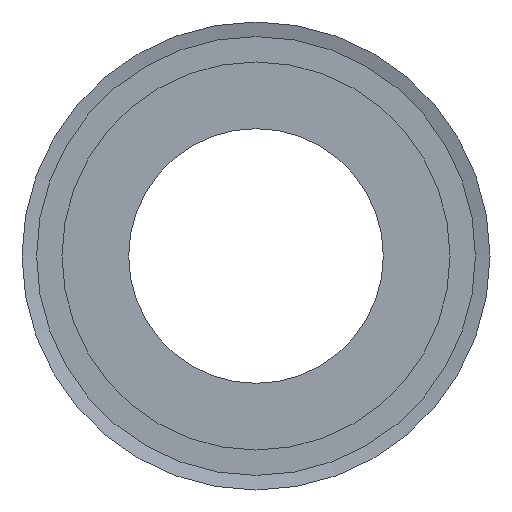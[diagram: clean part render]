
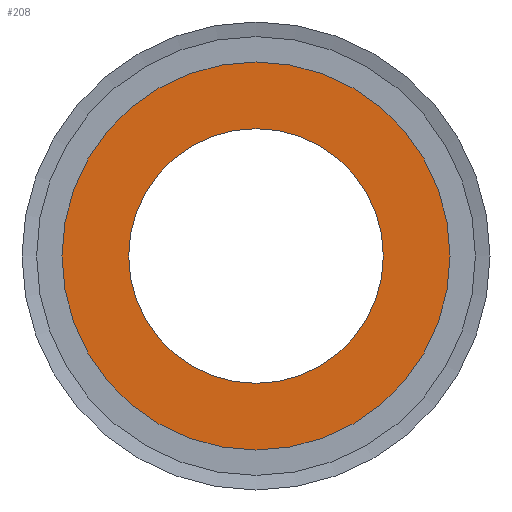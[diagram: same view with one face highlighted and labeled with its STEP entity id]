
A CAD part, left-side view. The second image highlights one B-rep face of the part: STEP entity #208.
In plain terms, the highlighted planar face has unit normal (-1, 0, 0).
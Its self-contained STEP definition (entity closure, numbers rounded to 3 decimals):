
#21=PLANE('',#235);
#31=FACE_BOUND('',#73,.T.);
#50=FACE_OUTER_BOUND('',#72,.T.);
#72=EDGE_LOOP('',(#167));
#73=EDGE_LOOP('',(#168));
#106=CIRCLE('',#230,49.75);
#110=CIRCLE('',#236,32.647);
#125=VERTEX_POINT('',#349);
#129=VERTEX_POINT('',#359);
#144=EDGE_CURVE('',#125,#125,#106,.T.);
#148=EDGE_CURVE('',#129,#129,#110,.T.);
#167=ORIENTED_EDGE('',*,*,#144,.T.);
#168=ORIENTED_EDGE('',*,*,#148,.F.);
#208=ADVANCED_FACE('',(#50,#31),#21,.T.);
#230=AXIS2_PLACEMENT_3D('',#350,#274,#275);
#235=AXIS2_PLACEMENT_3D('',#358,#284,#285);
#236=AXIS2_PLACEMENT_3D('',#360,#286,#287);
#274=DIRECTION('center_axis',(-1.,0.,0.));
#275=DIRECTION('ref_axis',(0.,0.,1.));
#284=DIRECTION('center_axis',(-1.,0.,0.));
#285=DIRECTION('ref_axis',(0.,0.,1.));
#286=DIRECTION('center_axis',(-1.,0.,0.));
#287=DIRECTION('ref_axis',(0.,0.,1.));
#349=CARTESIAN_POINT('',(-1.599,-2.852,0.));
#350=CARTESIAN_POINT('Origin',(-1.599,46.898,0.));
#358=CARTESIAN_POINT('Origin',(-1.599,14.25,0.));
#359=CARTESIAN_POINT('',(-1.599,14.25,0.));
#360=CARTESIAN_POINT('Origin',(-1.599,46.898,0.));
